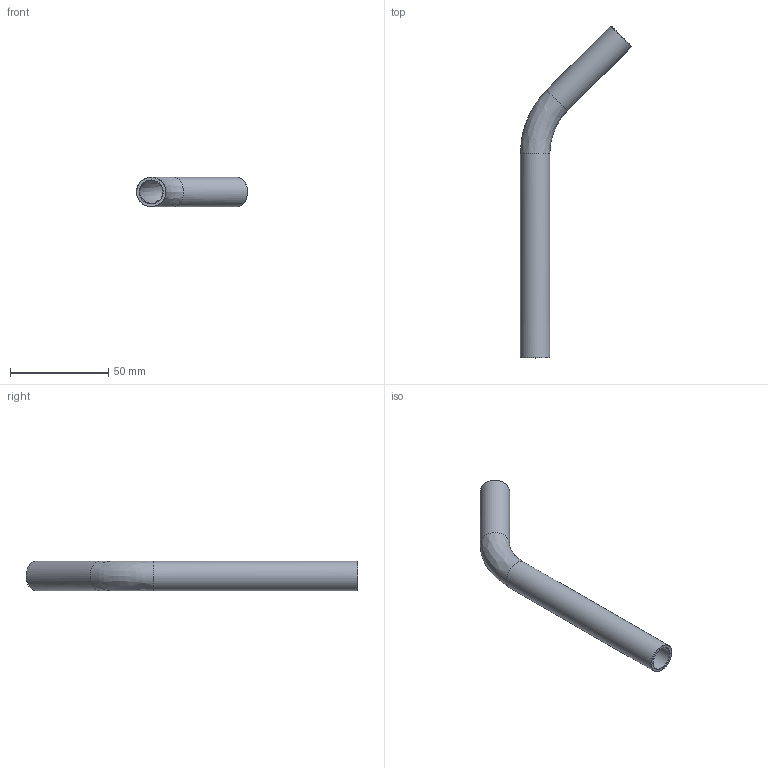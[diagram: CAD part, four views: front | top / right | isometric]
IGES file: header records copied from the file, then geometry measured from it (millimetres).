
Global section: file name: C73AC; native system: Autodesk Inventor 2023; preprocessor: unknown; author: lvalentini; date: 20230921.120727; units: millimetre
Bounding box: 56.56 x 169.06 x 15 mm (x, y, z)
Volume: 11515.4 mm3; surface area: 15430.7 mm2
Topology: 1 solids, 1 shells, 12 faces, 26 edges, 16 vertices
Faces by surface type: bspline 12
